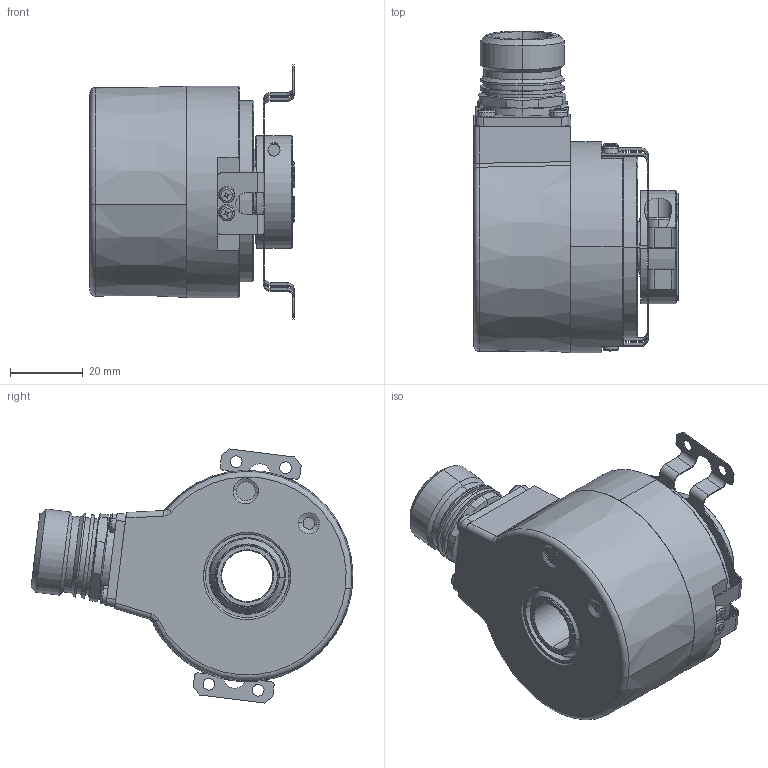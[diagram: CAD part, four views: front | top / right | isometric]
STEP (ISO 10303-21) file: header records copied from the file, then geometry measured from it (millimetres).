
FILE_DESCRIPTION (( 'STEP AP214' ), '1' );
FILE_NAME ('5834SIL.B5X4.XXXX.STEP', '2010-11-18T13:12:11', ( 'admin' ), ( 'Fritz Kübler GmbH' ), 'SwSTEP 2.0', 'SolidWorks 2009', '' );
FILE_SCHEMA (( 'AUTOMOTIVE_DESIGN' ));
Length unit declared in the file: millimetre
Products named in the file (1): 5834SIL.B5X4.XXXX
Bounding box: 56 x 88.28 x 69.69 mm (x, y, z)
Surface area: 29840.3 mm2 (no closed solid volume)
Topology: 0 solids, 40 shells, 588 faces, 1633 edges, 1051 vertices
Faces by surface type: plane 237, cylinder 221, cone 62, sphere 32, torus 28, bspline 8
Entity records: 26563 total; most frequent: CARTESIAN_POINT 4815, DIRECTION 3446, ORIENTED_EDGE 2873, EDGE_CURVE 1609, AXIS2_PLACEMENT_3D 1336, VERTEX_POINT 1051, VECTOR 774, LINE 774
